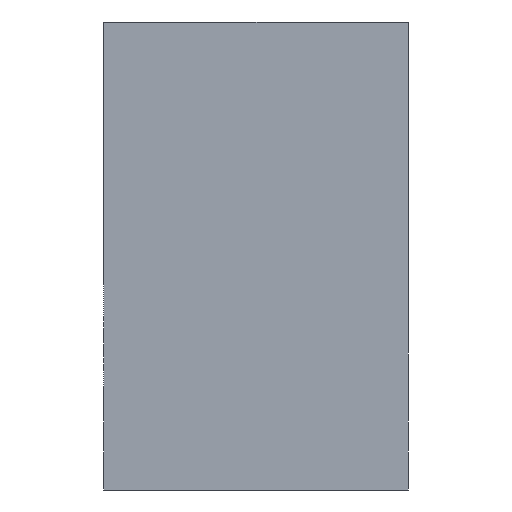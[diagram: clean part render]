
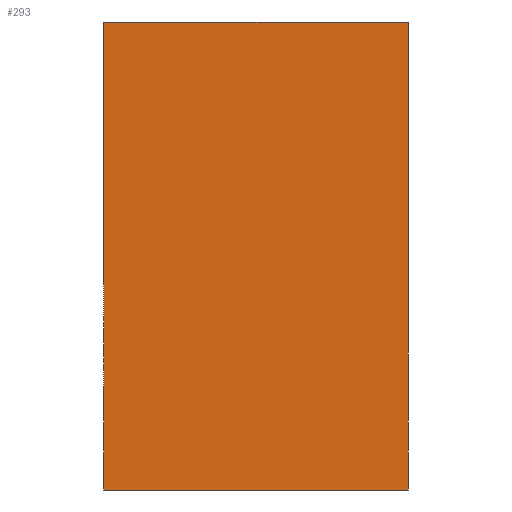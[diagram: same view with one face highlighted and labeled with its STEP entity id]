
A CAD part, left-side view. The second image highlights one B-rep face of the part: STEP entity #293.
In plain terms, the highlighted planar face has unit normal (-1, 0, 0).
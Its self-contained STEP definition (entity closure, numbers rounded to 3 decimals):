
#24 = CARTESIAN_POINT ( 'NONE',  ( 0., 19.5, -30. ) ) ;
#64 = CARTESIAN_POINT ( 'NONE',  ( 0., 19.5, -30. ) ) ;
#101 = DIRECTION ( 'NONE',  ( 0., 0., 1. ) ) ;
#137 = ORIENTED_EDGE ( 'NONE', *, *, #896, .T. ) ;
#175 = DIRECTION ( 'NONE',  ( 0., -1., 0. ) ) ;
#188 = CARTESIAN_POINT ( 'NONE',  ( 0., 0., 0. ) ) ;
#293 = ADVANCED_FACE ( 'NONE', ( #1650 ), #504, .F. ) ;
#387 = DIRECTION ( 'NONE',  ( 0., 0., 1. ) ) ;
#504 = PLANE ( 'NONE',  #876 ) ;
#528 = CARTESIAN_POINT ( 'NONE',  ( 0., 19.5, 0. ) ) ;
#642 = EDGE_CURVE ( 'NONE', #907, #697, #1139, .T. ) ;
#697 = VERTEX_POINT ( 'NONE', #1851 ) ;
#738 = VECTOR ( 'NONE', #387, 1000. ) ;
#748 = LINE ( 'NONE', #1220, #738 ) ;
#850 = EDGE_LOOP ( 'NONE', ( #137, #1604, #1873, #927 ) ) ;
#851 = VECTOR ( 'NONE', #175, 1000. ) ;
#858 = LINE ( 'NONE', #1792, #851 ) ;
#876 = AXIS2_PLACEMENT_3D ( 'NONE', #1753, #1811, #1802 ) ;
#896 = EDGE_CURVE ( 'NONE', #697, #1412, #1074, .T. ) ;
#907 = VERTEX_POINT ( 'NONE', #64 ) ;
#927 = ORIENTED_EDGE ( 'NONE', *, *, #642, .T. ) ;
#1066 = VECTOR ( 'NONE', #101, 1000. ) ;
#1074 = LINE ( 'NONE', #188, #1066 ) ;
#1123 = VECTOR ( 'NONE', #1840, 1000. ) ;
#1139 = LINE ( 'NONE', #24, #1123 ) ;
#1220 = CARTESIAN_POINT ( 'NONE',  ( 0., 19.5, 0. ) ) ;
#1412 = VERTEX_POINT ( 'NONE', #1451 ) ;
#1451 = CARTESIAN_POINT ( 'NONE',  ( 0., 0., 0. ) ) ;
#1559 = EDGE_CURVE ( 'NONE', #1923, #1412, #858, .T. ) ;
#1604 = ORIENTED_EDGE ( 'NONE', *, *, #1559, .F. ) ;
#1616 = EDGE_CURVE ( 'NONE', #907, #1923, #748, .T. ) ;
#1650 = FACE_OUTER_BOUND ( 'NONE', #850, .T. ) ;
#1753 = CARTESIAN_POINT ( 'NONE',  ( 0., 19.5, 0. ) ) ;
#1792 = CARTESIAN_POINT ( 'NONE',  ( 0., 19.5, 0. ) ) ;
#1802 = DIRECTION ( 'NONE',  ( 0., 0., -1. ) ) ;
#1811 = DIRECTION ( 'NONE',  ( 1., 0., 0. ) ) ;
#1840 = DIRECTION ( 'NONE',  ( 0., -1., 0. ) ) ;
#1851 = CARTESIAN_POINT ( 'NONE',  ( 0., 0., -30. ) ) ;
#1873 = ORIENTED_EDGE ( 'NONE', *, *, #1616, .F. ) ;
#1923 = VERTEX_POINT ( 'NONE', #528 ) ;
